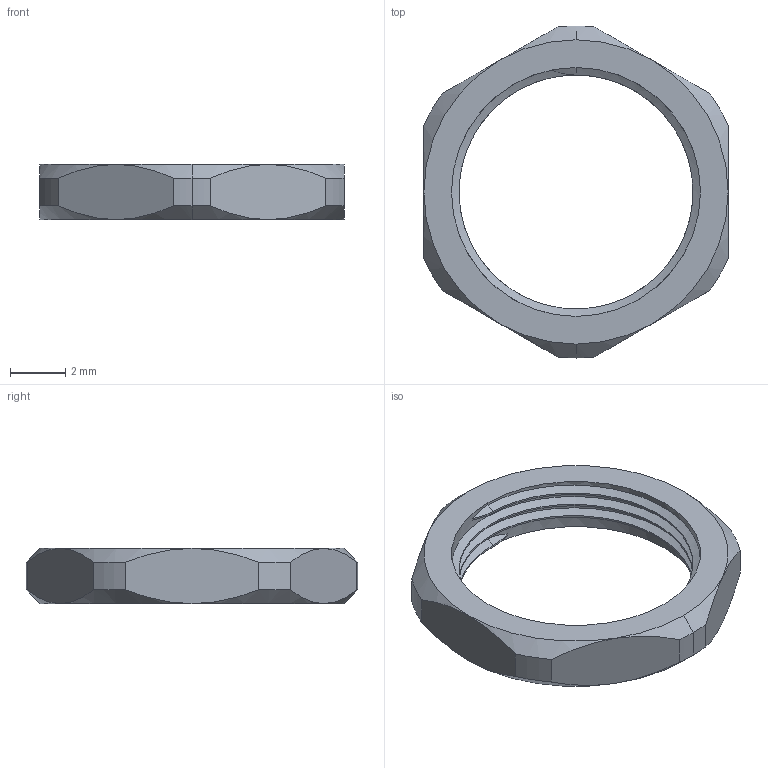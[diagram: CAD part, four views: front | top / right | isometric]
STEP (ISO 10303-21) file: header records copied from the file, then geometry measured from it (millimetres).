
FILE_DESCRIPTION(('CoCreate Modeling STEP Export'),'2;1');
FILE_NAME('H08-0031-CL903_LN-WS09M.pkg.stp','2011-09-29T14:10:20',(''),(''),'CoCreate Modeling STEP processor for AP214 (Solid Model)','CoCreate Modeling 17.00A 17-Jun-2010 (C) Parametric Technology GmbH','');
FILE_SCHEMA(('AUTOMOTIVE_DESIGN { 1 0 10303 214 1 1 1 1 }'));
Length unit declared in the file: millimetre
Products named in the file (2): LN-WS09M
Assembly tree (1 placements, depth 2):
  LN-WS09M
    LN-WS09M
Bounding box: 11 x 12 x 2 mm (x, y, z)
Volume: 81.3 mm3; surface area: 224 mm2
Topology: 1 solids, 1 shells, 49 faces, 117 edges, 70 vertices
Faces by surface type: cylinder 16, cone 16, bspline 9, plane 8
Entity records: 3218 total; most frequent: CARTESIAN_POINT 2337, ORIENTED_EDGE 234, EDGE_CURVE 117, DIRECTION 92, VERTEX_POINT 70, EDGE_LOOP 51, FACE_OUTER_BOUND 49, ADVANCED_FACE 49
